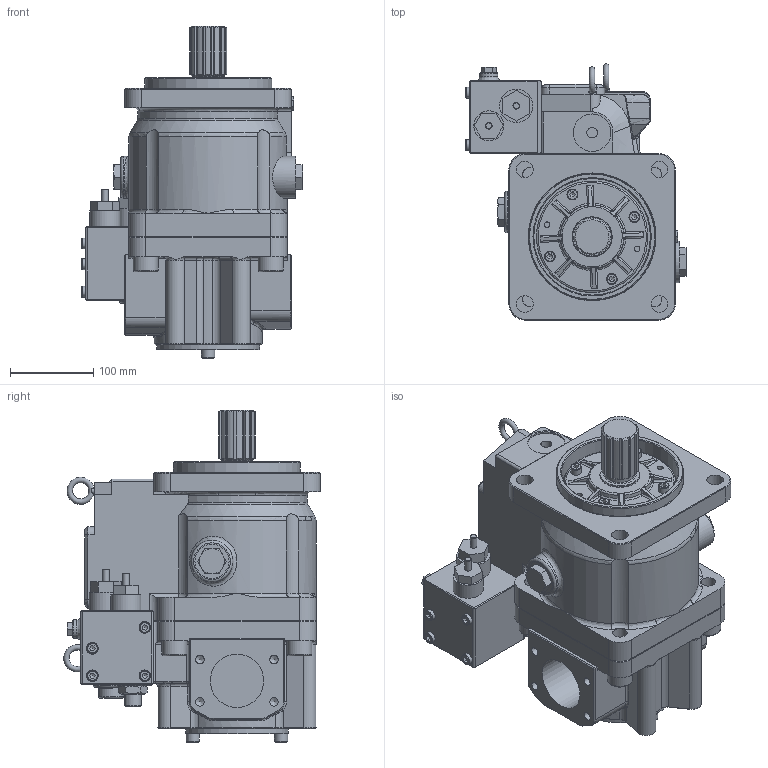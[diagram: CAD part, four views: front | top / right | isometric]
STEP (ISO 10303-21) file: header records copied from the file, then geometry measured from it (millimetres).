
FILE_DESCRIPTION((''),'2;1');
FILE_NAME('J:\Inventor\K3V, M2X\MODEL LIBRARY\K3VL112B 1NLSM L0.stp','2007-12-04T16:13:45',('mnorman'),(''),'Autodesk Inventor 2008','Autodesk Inventor 2008','');
FILE_SCHEMA(('AUTOMOTIVE_DESIGN { 1 0 10303 214 1 1 1 1 }'));
Length unit declared in the file: millimetre
Products named in the file (1): Part5
Bounding box: 265.3 x 307.95 x 398.5 mm (x, y, z)
Volume: 11861170.2 mm3; surface area: 599430.1 mm2
Topology: 1 solids, 25 shells, 1118 faces, 2626 edges, 1607 vertices
Faces by surface type: plane 481, cylinder 234, bspline 233, cone 134, torus 34, sphere 2
Full cylindrical faces by diameter (mm): 8 x12, 9.5 x4, 10 x2, 11 x2, 12.717 x1, 13 x8, 16 x4, 20 x10, 21 x1, 22 x1, 30 x5, 32 x1, 36 x1, 36.7 x1, 40 x1, 41 x2, 45 x1, 48 x2, 50 x2, 64 x1, 68 x1, 75 x1, 82.55 x1, 90 x2, 100 x1, 123.5 x1, 134 x1, 140 x1, 152.4 x1
Entity records: 39742 total; most frequent: CARTESIAN_POINT 15947, ORIENTED_EDGE 4632, DIRECTION 4530, EDGE_CURVE 2316, AXIS2_PLACEMENT_3D 1768, VERTEX_POINT 1514, EDGE_LOOP 1420, FACE_OUTER_BOUND 1117
